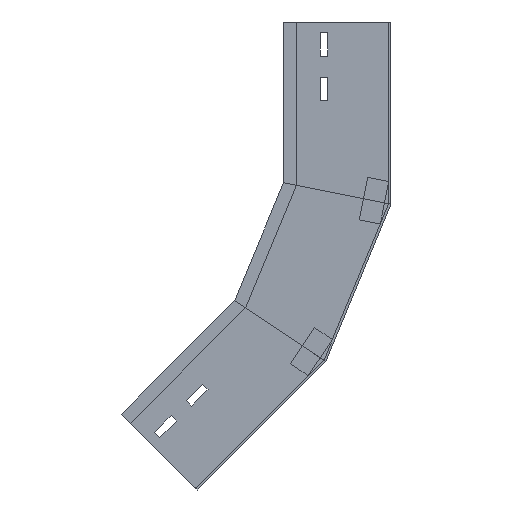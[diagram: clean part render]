
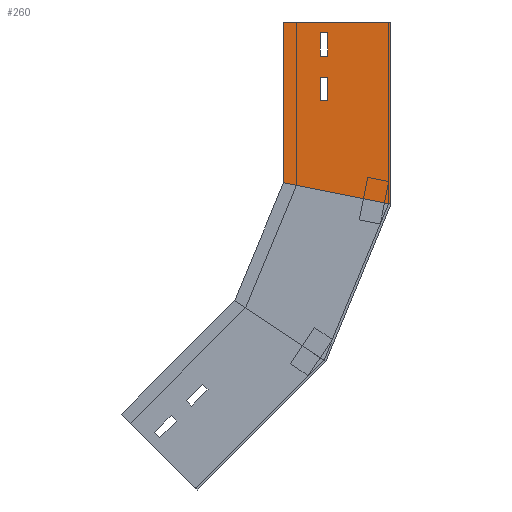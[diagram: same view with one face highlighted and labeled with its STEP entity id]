
A CAD part, left-side view. The second image highlights one B-rep face of the part: STEP entity #260.
In plain terms, the highlighted planar face has unit normal (-1, 0, 0) as drawn and (1, 0, 0) by its records, which use the part's own axes.
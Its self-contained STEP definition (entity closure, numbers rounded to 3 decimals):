
#3 = EDGE_CURVE ( 'NONE', #188, #656, #885, .T. ) ;
#4 = VERTEX_POINT ( 'NONE', #1000 ) ;
#16 = CARTESIAN_POINT ( 'NONE',  ( 0., 215.346, -387.287 ) ) ;
#25 = LINE ( 'NONE', #838, #846 ) ;
#67 = CARTESIAN_POINT ( 'NONE',  ( 0., 60.655, -316.035 ) ) ;
#88 = VECTOR ( 'NONE', #162, 1000. ) ;
#135 = VERTEX_POINT ( 'NONE', #587 ) ;
#146 = DIRECTION ( 'NONE',  ( 0., 0.707, 0.707 ) ) ;
#162 = DIRECTION ( 'NONE',  ( 0., 0.707, -0.707 ) ) ;
#163 = CARTESIAN_POINT ( 'NONE',  ( 0., 185.88, -357.821 ) ) ;
#171 = EDGE_CURVE ( 'NONE', #867, #1441, #922, .T. ) ;
#176 = DIRECTION ( 'NONE',  ( 0., 0.707, 0.707 ) ) ;
#188 = VERTEX_POINT ( 'NONE', #67 ) ;
#253 = DIRECTION ( 'NONE',  ( 0., -0.831, -0.556 ) ) ;
#260 = ADVANCED_FACE ( 'NONE', ( #1224, #1432, #422 ), #873, .F. ) ;
#288 = DIRECTION ( 'NONE',  ( 0., 0., 1. ) ) ;
#316 = EDGE_CURVE ( 'NONE', #638, #1248, #25, .T. ) ;
#357 = EDGE_LOOP ( 'NONE', ( #1240, #787, #438, #579 ) ) ;
#376 = CARTESIAN_POINT ( 'NONE',  ( 0., 190.83, -352.872 ) ) ;
#393 = VERTEX_POINT ( 'NONE', #16 ) ;
#397 = EDGE_CURVE ( 'NONE', #1421, #1472, #467, .T. ) ;
#398 = ORIENTED_EDGE ( 'NONE', *, *, #1455, .F. ) ;
#410 = AXIS2_PLACEMENT_3D ( 'NONE', #736, #881, #288 ) ;
#422 = FACE_OUTER_BOUND ( 'NONE', #1456, .T. ) ;
#438 = ORIENTED_EDGE ( 'NONE', *, *, #916, .F. ) ;
#467 = LINE ( 'NONE', #616, #1353 ) ;
#480 = LINE ( 'NONE', #1288, #845 ) ;
#484 = VECTOR ( 'NONE', #1367, 1000. ) ;
#498 = VECTOR ( 'NONE', #1151, 1000. ) ;
#513 = LINE ( 'NONE', #1348, #88 ) ;
#565 = ORIENTED_EDGE ( 'NONE', *, *, #397, .F. ) ;
#579 = ORIENTED_EDGE ( 'NONE', *, *, #810, .F. ) ;
#582 = CARTESIAN_POINT ( 'NONE',  ( 0., 145.431, -259.389 ) ) ;
#583 = CARTESIAN_POINT ( 'NONE',  ( 0., 185.88, -357.821 ) ) ;
#587 = CARTESIAN_POINT ( 'NONE',  ( 0., 190.83, -352.872 ) ) ;
#608 = CARTESIAN_POINT ( 'NONE',  ( 0., 204.739, -366.78 ) ) ;
#616 = CARTESIAN_POINT ( 'NONE',  ( 0., 131.366, -245.324 ) ) ;
#617 = ORIENTED_EDGE ( 'NONE', *, *, #3, .T. ) ;
#620 = CARTESIAN_POINT ( 'NONE',  ( 0., 175.274, -337.315 ) ) ;
#621 = LINE ( 'NONE', #842, #1360 ) ;
#638 = VERTEX_POINT ( 'NONE', #692 ) ;
#641 = LINE ( 'NONE', #376, #1160 ) ;
#649 = ORIENTED_EDGE ( 'NONE', *, *, #171, .F. ) ;
#656 = VERTEX_POINT ( 'NONE', #823 ) ;
#668 = ORIENTED_EDGE ( 'NONE', *, *, #1270, .T. ) ;
#684 = EDGE_CURVE ( 'NONE', #1441, #1212, #1254, .T. ) ;
#692 = CARTESIAN_POINT ( 'NONE',  ( 0., 220.295, -382.337 ) ) ;
#713 = CARTESIAN_POINT ( 'NONE',  ( 0., 180.581, -435.96 ) ) ;
#721 = DIRECTION ( 'NONE',  ( 0., -0.707, -0.707 ) ) ;
#736 = CARTESIAN_POINT ( 'NONE',  ( 0., 60.655, -316.035 ) ) ;
#737 = DIRECTION ( 'NONE',  ( 0., -0.707, 0.707 ) ) ;
#775 = DIRECTION ( 'NONE',  ( 0., 0.707, -0.707 ) ) ;
#777 = LINE ( 'NONE', #985, #990 ) ;
#787 = ORIENTED_EDGE ( 'NONE', *, *, #925, .F. ) ;
#810 = EDGE_CURVE ( 'NONE', #1248, #4, #480, .T. ) ;
#823 = CARTESIAN_POINT ( 'NONE',  ( 0., 180.581, -435.96 ) ) ;
#838 = CARTESIAN_POINT ( 'NONE',  ( 0., 220.295, -382.337 ) ) ;
#842 = CARTESIAN_POINT ( 'NONE',  ( 0., 86.366, -298.856 ) ) ;
#845 = VECTOR ( 'NONE', #721, 1000. ) ;
#846 = VECTOR ( 'NONE', #737, 1000. ) ;
#854 = EDGE_CURVE ( 'NONE', #656, #1472, #1308, .T. ) ;
#867 = VERTEX_POINT ( 'NONE', #620 ) ;
#873 = PLANE ( 'NONE',  #410 ) ;
#877 = EDGE_LOOP ( 'NONE', ( #398, #959, #1071, #649 ) ) ;
#881 = DIRECTION ( 'NONE',  ( -1., 0., 0. ) ) ;
#885 = LINE ( 'NONE', #1231, #982 ) ;
#908 = CARTESIAN_POINT ( 'NONE',  ( 0., 170.324, -342.265 ) ) ;
#916 = EDGE_CURVE ( 'NONE', #4, #393, #513, .T. ) ;
#922 = LINE ( 'NONE', #1383, #1463 ) ;
#925 = EDGE_CURVE ( 'NONE', #393, #638, #777, .T. ) ;
#959 = ORIENTED_EDGE ( 'NONE', *, *, #1268, .F. ) ;
#982 = VECTOR ( 'NONE', #775, 1000. ) ;
#985 = CARTESIAN_POINT ( 'NONE',  ( 0., 220.295, -382.337 ) ) ;
#990 = VECTOR ( 'NONE', #176, 1000. ) ;
#1000 = CARTESIAN_POINT ( 'NONE',  ( 0., 199.789, -371.73 ) ) ;
#1045 = CARTESIAN_POINT ( 'NONE',  ( 0., 251.291, -365.25 ) ) ;
#1071 = ORIENTED_EDGE ( 'NONE', *, *, #684, .F. ) ;
#1094 = DIRECTION ( 'NONE',  ( 0., 0.707, 0.707 ) ) ;
#1105 = DIRECTION ( 'NONE',  ( 0., -0.707, -0.707 ) ) ;
#1151 = DIRECTION ( 'NONE',  ( 0., -0.707, 0.707 ) ) ;
#1160 = VECTOR ( 'NONE', #1094, 1000. ) ;
#1167 = DIRECTION ( 'NONE',  ( 0., 0.707, -0.707 ) ) ;
#1212 = VERTEX_POINT ( 'NONE', #163 ) ;
#1224 = FACE_BOUND ( 'NONE', #357, .T. ) ;
#1231 = CARTESIAN_POINT ( 'NONE',  ( 0., 60.655, -316.035 ) ) ;
#1240 = ORIENTED_EDGE ( 'NONE', *, *, #316, .F. ) ;
#1248 = VERTEX_POINT ( 'NONE', #608 ) ;
#1254 = LINE ( 'NONE', #583, #484 ) ;
#1268 = EDGE_CURVE ( 'NONE', #1212, #135, #641, .T. ) ;
#1270 = EDGE_CURVE ( 'NONE', #1421, #188, #621, .T. ) ;
#1287 = ORIENTED_EDGE ( 'NONE', *, *, #854, .T. ) ;
#1288 = CARTESIAN_POINT ( 'NONE',  ( 0., 204.739, -366.78 ) ) ;
#1308 = LINE ( 'NONE', #713, #1394 ) ;
#1348 = CARTESIAN_POINT ( 'NONE',  ( 0., 215.346, -387.287 ) ) ;
#1353 = VECTOR ( 'NONE', #1167, 1000. ) ;
#1360 = VECTOR ( 'NONE', #253, 1000. ) ;
#1367 = DIRECTION ( 'NONE',  ( 0., 0.707, -0.707 ) ) ;
#1383 = CARTESIAN_POINT ( 'NONE',  ( 0., 175.274, -337.315 ) ) ;
#1394 = VECTOR ( 'NONE', #146, 1000. ) ;
#1421 = VERTEX_POINT ( 'NONE', #582 ) ;
#1432 = FACE_BOUND ( 'NONE', #877, .T. ) ;
#1441 = VERTEX_POINT ( 'NONE', #908 ) ;
#1455 = EDGE_CURVE ( 'NONE', #135, #867, #1486, .T. ) ;
#1456 = EDGE_LOOP ( 'NONE', ( #668, #617, #1287, #565 ) ) ;
#1463 = VECTOR ( 'NONE', #1105, 1000. ) ;
#1472 = VERTEX_POINT ( 'NONE', #1045 ) ;
#1474 = CARTESIAN_POINT ( 'NONE',  ( 0., 190.83, -352.872 ) ) ;
#1486 = LINE ( 'NONE', #1474, #498 ) ;
